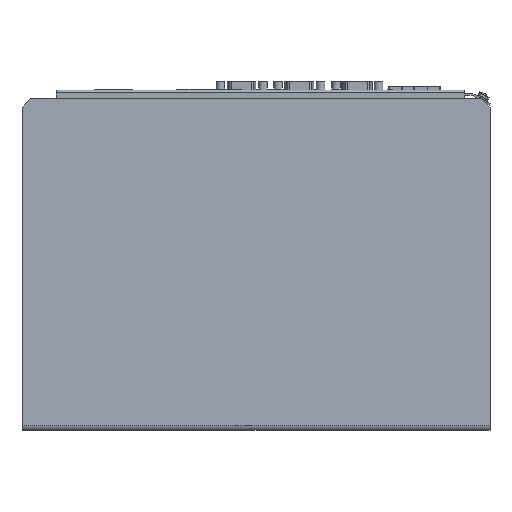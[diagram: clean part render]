
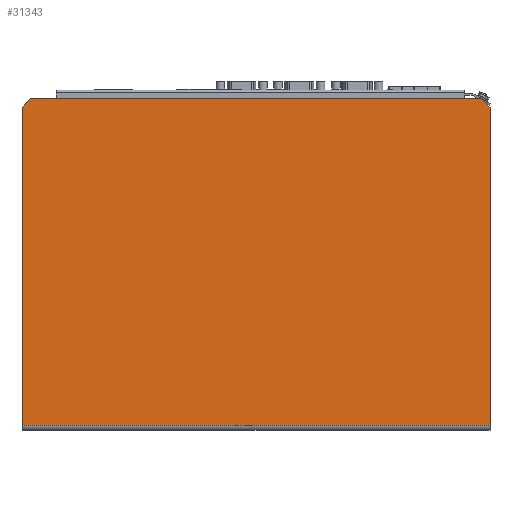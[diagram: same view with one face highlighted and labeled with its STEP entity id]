
A CAD part, left-side view. The second image highlights one B-rep face of the part: STEP entity #31343.
In plain terms, the highlighted planar face has unit normal (-1, 0, 0).
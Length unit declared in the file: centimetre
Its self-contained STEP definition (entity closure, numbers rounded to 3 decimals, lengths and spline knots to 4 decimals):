
#2747=VECTOR('',#35504,1.);
#2748=VECTOR('',#35506,1.);
#2753=VECTOR('',#35514,1.);
#2754=VECTOR('',#35515,1.);
#2755=VECTOR('',#35516,1.);
#2756=VECTOR('',#35517,1.);
#5801=LINE('',#42832,#2747);
#5802=LINE('',#42834,#2748);
#5807=LINE('',#42846,#2753);
#5808=LINE('',#42848,#2754);
#5809=LINE('',#42850,#2755);
#5810=LINE('',#42852,#2756);
#8385=PLANE('',#33278);
#10350=VERTEX_POINT('',#42827);
#10352=VERTEX_POINT('',#42831);
#10353=VERTEX_POINT('',#42835);
#10358=VERTEX_POINT('',#42847);
#10359=VERTEX_POINT('',#42849);
#10360=VERTEX_POINT('',#42851);
#13890=EDGE_CURVE('',#10350,#10352,#5801,.T.);
#13891=EDGE_CURVE('',#10353,#10350,#5802,.T.);
#13897=EDGE_CURVE('',#10352,#10358,#5807,.T.);
#13898=EDGE_CURVE('',#10358,#10359,#5808,.T.);
#13899=EDGE_CURVE('',#10360,#10359,#5809,.T.);
#13900=EDGE_CURVE('',#10353,#10360,#5810,.T.);
#18626=ORIENTED_EDGE('',*,*,#13890,.T.);
#18627=ORIENTED_EDGE('',*,*,#13897,.T.);
#18628=ORIENTED_EDGE('',*,*,#13898,.T.);
#18629=ORIENTED_EDGE('',*,*,#13899,.F.);
#18630=ORIENTED_EDGE('',*,*,#13900,.F.);
#18631=ORIENTED_EDGE('',*,*,#13891,.T.);
#26983=EDGE_LOOP('',(#18626,#18627,#18628,#18629,#18630,#18631));
#29225=FACE_BOUND('',#26983,.T.);
#31343=ADVANCED_FACE('',(#29225),#8385,.T.);
#33278=AXIS2_PLACEMENT_3D('',#42845,#35513,$);
#35504=DIRECTION('',(0.,0.707,0.707));
#35506=DIRECTION('',(0.,0.,1.));
#35513=DIRECTION('',(-1.,0.,0.));
#35514=DIRECTION('',(0.,1.,0.));
#35515=DIRECTION('',(0.,0.707,-0.707));
#35516=DIRECTION('',(0.,0.,1.));
#35517=DIRECTION('',(0.,1.,0.));
#42827=CARTESIAN_POINT('',(0.,-4.,19.));
#42831=CARTESIAN_POINT('',(0.,-3.5,19.5));
#42832=CARTESIAN_POINT('',(0.,-4.6875,18.3125));
#42834=CARTESIAN_POINT('',(0.,-4.,0.));
#42835=CARTESIAN_POINT('',(0.,-4.,0.3));
#42845=CARTESIAN_POINT('',(0.,11.75,0.));
#42846=CARTESIAN_POINT('',(0.,10.6375,19.5));
#42847=CARTESIAN_POINT('',(0.,23.,19.5));
#42848=CARTESIAN_POINT('',(0.,25.1875,17.3125));
#42849=CARTESIAN_POINT('',(0.,23.5,19.));
#42850=CARTESIAN_POINT('',(0.,23.5,0.));
#42851=CARTESIAN_POINT('',(0.,23.5,0.3));
#42852=CARTESIAN_POINT('',(0.,10.4225,0.3));
